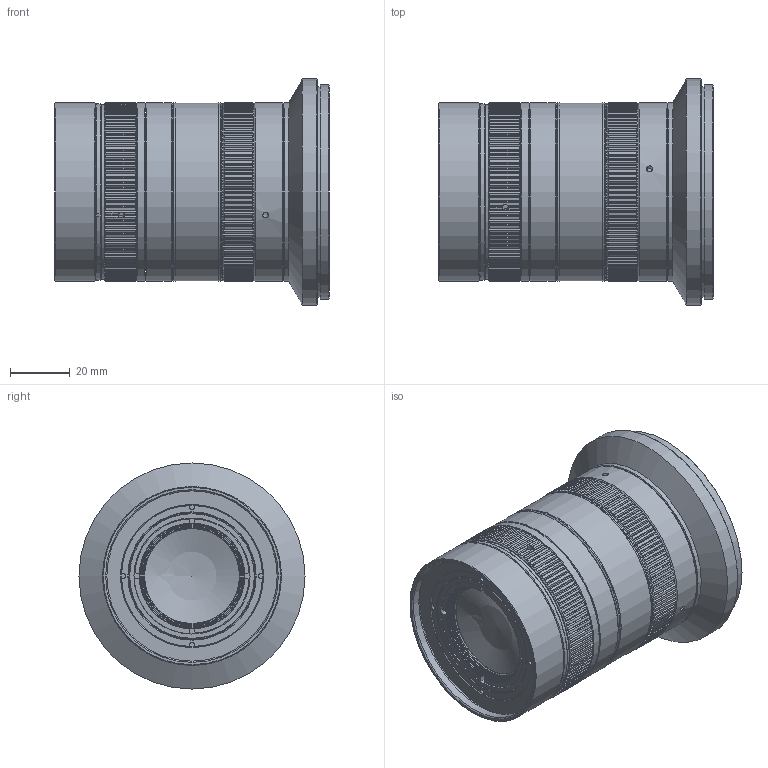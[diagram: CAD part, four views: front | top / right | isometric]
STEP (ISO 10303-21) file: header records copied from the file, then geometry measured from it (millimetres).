
FILE_DESCRIPTION(/* description */ (''),/* implementation_level */ '2;1');
FILE_NAME(/* name */ '60040_stp.stp',/* time_stamp */ '2023-11-20T14:26:30+08:00',/* author */ (''),/* organization */ (''),/* preprocessor_version */ 'ST-DEVELOPER v16.7',/* originating_system */ 'SIEMENS PLM Software NX 12.0',/* authorisation */ '');
FILE_SCHEMA (('AUTOMOTIVE_DESIGN { 1 0 10303 214 3 1 1 1 }'));
Length unit declared in the file: millimetre
Products named in the file (1): yuan54D4393Bed34
Bounding box: 92.2 x 76 x 76 mm (x, y, z)
Volume: 153951 mm3; surface area: 106025.6 mm2
Topology: 10 solids, 11 shells, 2078 faces, 5620 edges, 3627 vertices
Faces by surface type: plane 920, cone 709, cylinder 419, bspline 26, sphere 2, revolution 2
Full cylindrical faces by diameter (mm): 1 x8, 1.6 x10, 1.7 x1, 2 x6, 2.1 x6, 3 x1, 12 x1, 12.08 x1, 12.6 x2, 15.2 x2, 18 x1, 21.5 x1, 23.2 x1, 23.8 x1, 26.6 x1, 30 x1, 30.6 x1, 31.89 x1, 32.078 x1, 32.99 x1, 33.49 x1, 33.6 x2, 33.99 x1, 34.4 x1, 34.49 x1, 34.6 x2, 34.8 x1, 34.99 x1, 35.208 x1, 35.266 x1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
Entity records: 73529 total; most frequent: CARTESIAN_POINT 23387, ORIENTED_EDGE 10502, DIRECTION 10063, EDGE_CURVE 5251, AXIS2_PLACEMENT_3D 3840, VERTEX_POINT 3562, EDGE_LOOP 2493, LINE 2381
